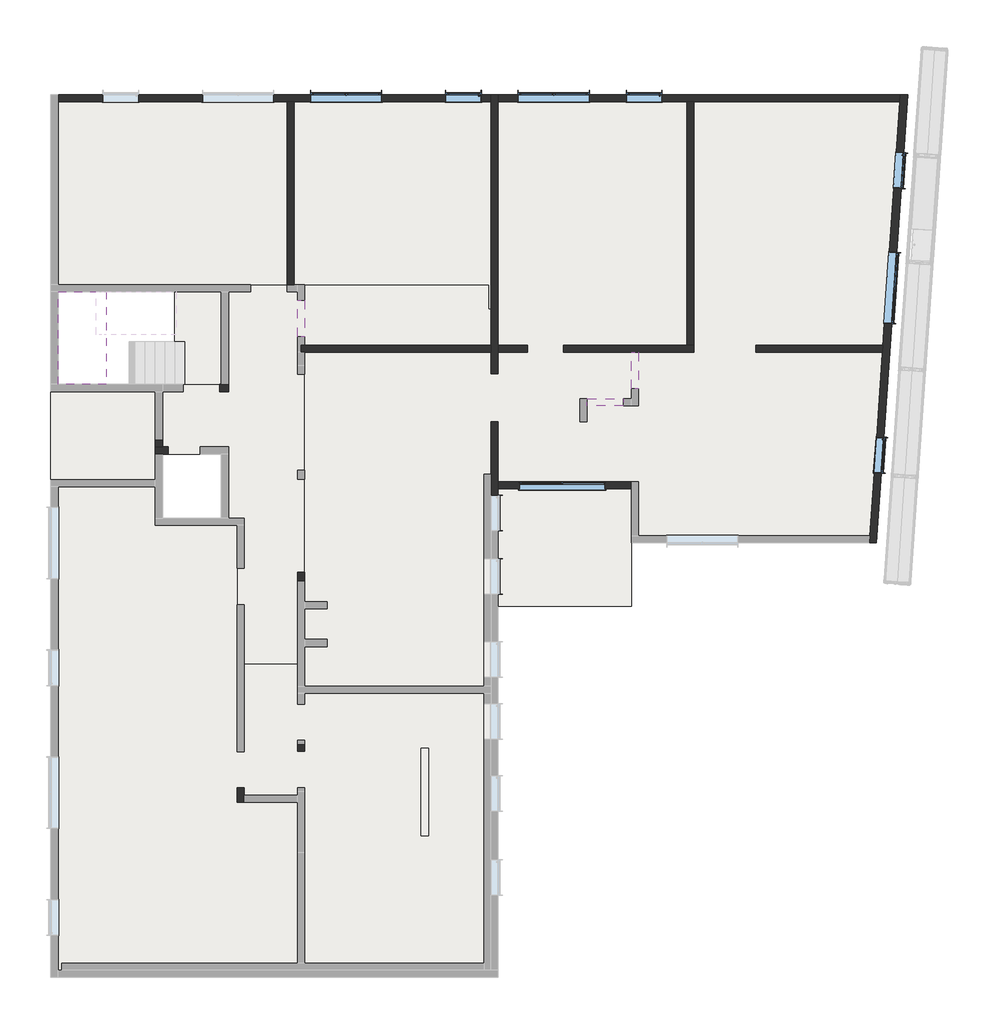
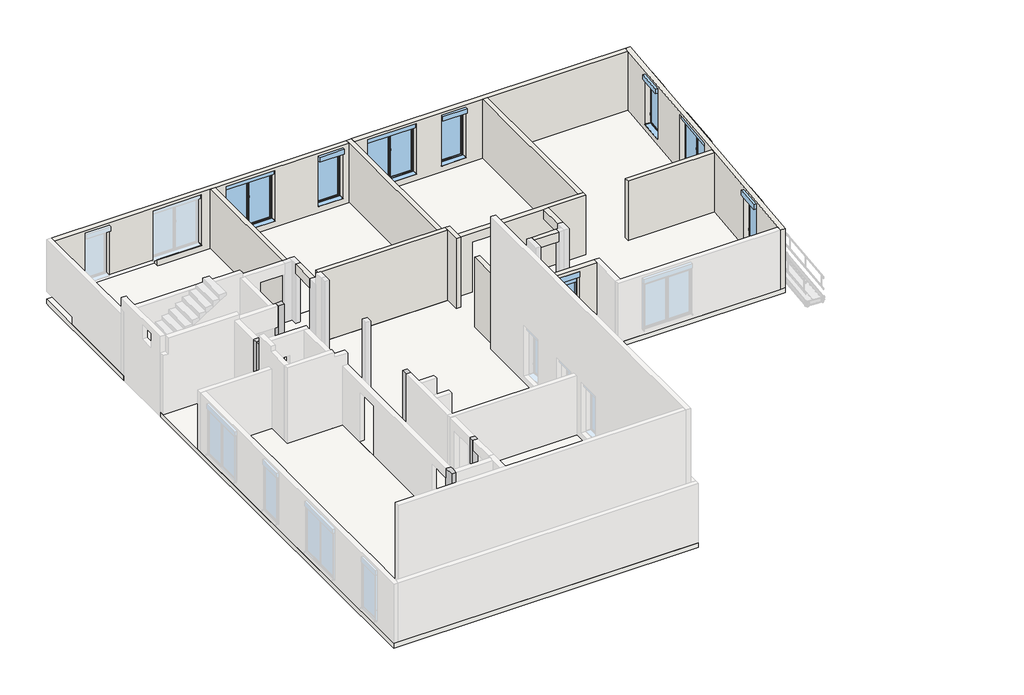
# One storey, part 2 of 3: 14 walls, 8 windows, 7 columns, 5 slabs.
"""IFC4 building model written with IfcOpenShell, lengths in millimetres."""

from ifc_helpers import new_model, si_unit, frame, origin, place, context, project, spatial, polyline, outline, extrude, faceted_brep, transform, mapped, element, save
from components import window_b85a0a24, window_200x100_8459d8a5, window_200x100_a15cc3b6, window_200x200_ecfd3ef9

model = new_model("IFC4")

# Units and contexts
model_context = context("Model", 3, world=origin())
ifc_project = project(units=[si_unit("LENGTHUNIT", "METRE", prefix="MILLI")], contexts=[model_context])

# Site, building, storey
site = spatial("IfcSite", under=ifc_project)
building = spatial("IfcBuilding", under=site)
storey = spatial("IfcBuildingStorey", under=building, Name="07-Plateau 7", Elevation=12400.0)

# Columns
placement = place(None, origin())
element("IfcColumn", 1, ObjectType="Poteau béton - Carré : 200 x 200 mm", at=placement, inside=storey, context=model_context, shape_type="SweptSolid", body=[
    extrude(outline(polyline([(-2977.0447796, 9329.8622276), (-2977.0447796, 9129.8622276), (-3177.0447796, 9129.8622276), (-3177.0447796, 9329.8622276), (-2977.0447796, 9329.8622276)])), frame((0.0, 0.0, 12570.0), z_axis=(0.0, 0.0, 1.0), x_axis=(1.0, 0.0, 0.0)), (0.0, 0.0, 1.0), 3080.0),
])
element("IfcColumn", 2, ObjectType="Poteau béton - Carré : 200 x 200 mm", at=placement, inside=storey, context=model_context, shape_type="SweptSolid", body=[
    extrude(outline(polyline([(-2977.0447796, 10879.8622276), (-2977.0447796, 10679.8622276), (-3177.0447796, 10679.8622276), (-3177.0447796, 10879.8622276), (-2977.0447796, 10879.8622276)])), frame((0.0, 0.0, 12570.0), z_axis=(0.0, 0.0, 1.0), x_axis=(1.0, 0.0, 0.0)), (0.0, 0.0, 1.0), 3080.0),
])
element("IfcColumn", 3, ObjectType="Poteau béton - Rectangulaire : 200x250 mm", at=placement, inside=storey, context=model_context, shape_type="Brep", body=[
    faceted_brep([(-1377.0447796, 10879.8622276, 12570.0), (-1327.0447796, 10879.8622276, 12570.0), (-1127.0447796, 10879.8622276, 12570.0), (-1127.0447796, 10679.8622276, 12570.0), (-1377.0447796, 10679.8622276, 12570.0), (-1377.0447796, 10879.8622276, 15650.0), (-1327.0447796, 10879.8622276, 15650.0), (-1127.0447796, 10879.8622276, 15650.0), (-1127.0447796, 10879.8622276, 15150.0), (-1377.0447796, 10879.8622276, 14740.0), (-1127.0447796, 10679.8622276, 15650.0), (-1377.0447796, 10679.8622276, 15650.0), (-1377.0447796, 10679.8622276, 14740.0)], [[[0, 1, 2, 3, 4]], [[5, 6, 7, 8, 2, 1, 0, 9]], [[7, 10, 3, 2, 8]], [[10, 11, 12, 4, 3]], [[11, 5, 9, 0, 4, 12]], [[5, 11, 10, 7, 6]]]),
])
element("IfcColumn", 4, ObjectType="Poteau béton - Rectangulaire : 200x360 mm", at=placement, inside=storey, context=model_context, shape_type="Brep", body=[
    faceted_brep([(-3177.0447796, 9129.8622276, 12570.0), (-2817.0447796, 9129.8622276, 12570.0), (-2817.0447796, 8929.8622276, 12570.0), (-2977.0447796, 8929.8622276, 12570.0), (-3177.0447796, 8929.8622276, 12570.0), (-3177.0447796, 9129.8622276, 15650.0), (-2817.0447796, 9129.8622276, 15650.0), (-2817.0447796, 9129.8622276, 14740.0), (-2817.0447796, 8929.8622276, 15650.0), (-2817.0447796, 8929.8622276, 14740.0), (-3177.0447796, 8929.8622276, 15650.0), (-3177.0447796, 8929.8622276, 15370.0)], [[[0, 1, 2, 3, 4]], [[5, 6, 7, 1, 0]], [[6, 8, 9, 2, 1, 7]], [[8, 10, 11, 4, 3, 2, 9]], [[10, 5, 0, 4, 11]], [[5, 10, 8, 6]]]),
])
element("IfcColumn", 5, ObjectType="Poteau béton - Rectangulaire : 20x25", at=placement, inside=storey, context=model_context, shape_type="Brep", body=[
    faceted_brep([(812.9552204, 5362.4340998, 12570.0), (812.9552204, 5612.4340998, 12570.0), (1012.9552204, 5612.4340998, 12570.0), (1012.9552204, 5362.4340998, 12570.0), (812.9552204, 5362.4340998, 15150.0), (812.9552204, 5612.4340998, 15150.0), (812.9552204, 5612.4340998, 14930.0), (1012.9552204, 5612.4340998, 15150.0), (1012.9552204, 5612.4340998, 14930.0), (1012.9552204, 5362.4340998, 15150.0)], [[[0, 1, 2, 3]], [[4, 5, 6, 1, 0]], [[5, 7, 8, 2, 1, 6]], [[7, 9, 3, 2, 8]], [[9, 4, 0, 3]], [[4, 9, 7, 5]]]),
])
element("IfcColumn", 6, ObjectType="Poteau béton - Rectangulaire : 20x30", at=placement, inside=storey, context=model_context, shape_type="Brep", body=[
    faceted_brep([(1012.9552204, 602.4340998, 12570.0), (812.9552204, 602.4340998, 12570.0), (812.9552204, 802.4340998, 12570.0), (1012.9552204, 802.4340998, 12570.0), (812.9552204, 602.4340998, 14740.0), (812.9552204, 602.4340998, 15150.0), (812.9552204, 802.4340998, 15150.0), (1012.9552204, 602.4340998, 15150.0), (1012.9552204, 602.4340998, 14740.0), (1012.9552204, 802.4340998, 15150.0)], [[[0, 1, 2, 3]], [[1, 4, 5, 6, 2]], [[7, 8, 0, 3, 9]], [[1, 0, 8, 7, 5, 4]], [[5, 7, 9, 6]], [[3, 2, 6, 9]]]),
])
element("IfcColumn", 7, ObjectType="Poteau béton - Rectangulaire : 20x40", at=placement, inside=storey, context=model_context, shape_type="Brep", body=[
    faceted_brep([(-687.0447796, -430.1377724, 12570.0), (-687.0447796, -630.1377724, 12570.0), (-687.0447796, -830.1377724, 12570.0), (-887.0447796, -830.1377724, 12570.0), (-887.0447796, -430.1377724, 12570.0), (-687.0447796, -430.1377724, 15150.0), (-687.0447796, -630.1377724, 15150.0), (-687.0447796, -830.1377724, 15150.0), (-687.0447796, -430.1377724, 14740.0), (-887.0447796, -830.1377724, 15150.0), (-887.0447796, -430.1377724, 15150.0), (-887.0447796, -430.1377724, 14740.0)], [[[0, 1, 2, 3, 4]], [[5, 6, 7, 2, 1, 0, 8]], [[7, 9, 3, 2]], [[9, 10, 11, 4, 3]], [[10, 5, 8, 0, 4, 11]], [[5, 10, 9, 7, 6]]]),
])

# Slabs
element("IfcSlab", 8, ObjectType="Plancher Coulé en place 23 cm", at=placement, inside=storey, context=model_context, shape_type="Brep", body=[
    faceted_brep([(-1327.0447796, 13579.8622276, 12340.0), (-1327.0447796, 13680.5057943, 12340.0), (6182.9552204, 13680.5057943, 12340.0), (6182.9552204, 12999.8622276, 12340.0), (6232.9552204, 12999.8622276, 12340.0), (6232.9552204, 11779.8622276, 12340.0), (1012.9552204, 11779.8622276, 12340.0), (1012.9552204, 3239.8622276, 12340.0), (1012.9552204, 3039.8622276, 12340.0), (507.9552204, 3039.8622276, 12340.0), (-512.0447796, 3039.8622276, 12340.0), (-687.0447796, 3039.8622276, 12340.0), (-887.0447796, 3039.8622276, 12340.0), (-887.0447796, 3339.8622276, 12340.0), (-887.0447796, 6929.8622276, 12340.0), (-1327.0447796, 6929.8622276, 12340.0), (-1327.0447796, 7129.8622276, 12340.0), (-1327.0447796, 8929.8622276, 12340.0), (-2817.0447796, 8929.8622276, 12340.0), (-3177.0447796, 8929.8622276, 12340.0), (-3177.0447796, 9129.8622276, 12340.0), (-3177.0447796, 10879.8622276, 12340.0), (-1377.0447796, 10879.8622276, 12340.0), (-1327.0447796, 10879.8622276, 12340.0), (-1327.0447796, 13579.8622276, 12570.0), (-1327.0447796, 10879.8622276, 12570.0), (-1377.0447796, 10879.8622276, 12570.0), (-2977.0447796, 10879.8622276, 12570.0), (-3177.0447796, 10879.8622276, 12570.0), (-3177.0447796, 10679.8622276, 12570.0), (-3177.0447796, 9329.8622276, 12570.0), (-3177.0447796, 9129.8622276, 12570.0), (-3177.0447796, 8929.8622276, 12570.0), (-2817.0447796, 8929.8622276, 12570.0), (-1327.0447796, 8929.8622276, 12570.0), (-1327.0447796, 7129.8622276, 12570.0), (-1327.0447796, 6929.8622276, 12570.0), (-887.0447796, 6929.8622276, 12570.0), (-887.0447796, 3039.8622276, 12570.0), (1012.9552204, 3039.8622276, 12570.0), (1012.9552204, 5362.4340998, 12570.0), (1012.9552204, 5612.4340998, 12570.0), (1012.9552204, 8227.4340998, 12570.0), (1012.9552204, 8477.4340998, 12570.0), (1012.9552204, 11167.4340998, 12570.0), (1012.9552204, 11417.4340998, 12570.0), (1012.9552204, 11779.5762916, 12570.0), (1012.9552204, 11779.8622276, 12570.0), (6232.9552204, 11779.8622276, 12570.0), (6232.9552204, 12999.8622276, 12570.0), (6182.9552204, 12999.8622276, 12570.0), (6182.9552204, 13680.5057943, 12570.0), (-1327.0447796, 13680.5057943, 12570.0)], [[[0, 1, 2, 3, 4, 5, 6, 7, 8, 9, 10, 11, 12, 13, 14, 15, 16, 17, 18, 19, 20, 21, 22, 23]], [[24, 25, 26, 27, 28, 29, 30, 31, 32, 33, 34, 35, 36, 37, 38, 39, 40, 41, 42, 43, 44, 45, 46, 47, 48, 49, 50, 51, 52]], [[1, 0, 24, 52]], [[2, 1, 52, 51]], [[3, 2, 51, 50]], [[4, 3, 50, 49]], [[5, 4, 49, 48]], [[6, 5, 48, 47]], [[8, 7, 6, 47, 46, 45, 44, 43, 42, 41, 40, 39]], [[12, 11, 10, 9, 8, 39, 38]], [[14, 13, 12, 38, 37]], [[15, 14, 37, 36]], [[16, 15, 36, 35]], [[17, 16, 35, 34]], [[19, 18, 17, 34, 33, 32]], [[21, 20, 19, 32, 31, 30, 29, 28]], [[23, 22, 21, 28, 27, 26, 25]], [[0, 23, 25, 24]]]),
])
element("IfcSlab", 9, ObjectType="Plancher Coulé en place 20 cm", at=placement, inside=storey, context=model_context, shape_type="Brep", body=[
    faceted_brep([(6332.9552204, 18999.8622276, 12370.0), (6482.9552204, 18999.8622276, 12370.0), (10172.9552204, 18999.8622276, 12370.0), (17919.8015255, 18999.8622276, 12370.0), (17041.777301, 6443.530828, 12370.0), (10173.5257924, 6443.530828, 12370.0), (10173.5257924, 7959.8622276, 12370.0), (7032.9552204, 7959.8622276, 12370.0), (6432.9552204, 7959.8622276, 12370.0), (6432.9552204, 7779.8622276, 12370.0), (6432.9552204, 6779.8622276, 12370.0), (6432.9552204, 5999.8622276, 12370.0), (6432.9552204, 1129.8622276, 12370.0), (6432.9552204, -2140.1377724, 12370.0), (6432.9552204, -2440.1377724, 12370.0), (6432.9552204, -5740.1377724, 12370.0), (-6107.0447796, -5740.1377724, 12370.0), (-6107.0447796, 8209.8622276, 12370.0), (-6107.0447796, 10679.8622276, 12370.0), (-6107.0447796, 10879.8622276, 12370.0), (-2977.0447796, 10879.8622276, 12370.0), (-2977.0447796, 7129.8622276, 12370.0), (-1327.0447796, 7129.8622276, 12370.0), (-1327.0447796, 6929.8622276, 12370.0), (-887.0447796, 6929.8622276, 12370.0), (-887.0447796, 3039.8622276, 12370.0), (1012.9552204, 3039.8622276, 12370.0), (1012.9552204, 11779.8622276, 12370.0), (6232.9552204, 11779.8622276, 12370.0), (6232.9552204, 12999.8622276, 12370.0), (6182.9552204, 12999.8622276, 12370.0), (6182.9552204, 13679.8622276, 12370.0), (-1327.0447796, 13679.8622276, 12370.0), (-1327.0447796, 13479.8622276, 12370.0), (-6107.0447796, 13479.8622276, 12370.0), (-6107.0447796, 16949.8622276, 12370.0), (-6107.0447796, 17149.8622276, 12370.0), (-6107.0447796, 18799.8622276, 12370.0), (-6107.0447796, 18999.8622276, 12370.0), (-1857.0447796, 18999.8622276, 12370.0), (5962.9552204, 18999.8622276, 12370.0), (6332.9552204, 18999.8622276, 12570.0), (-1657.0447796, 18999.8622276, 12570.0), (-6107.0447796, 18999.8622276, 12570.0), (-6107.0447796, 18799.8622276, 12570.0), (-6107.0447796, 17149.8622276, 12570.0), (-6107.0447796, 13479.8622276, 12570.0), (-1327.0447796, 13479.8622276, 12570.0), (-1327.0447796, 13679.8622276, 12570.0), (6182.9552204, 13679.8622276, 12570.0), (6182.9552204, 12999.8622276, 12570.0), (6232.9552204, 12999.8622276, 12570.0), (6232.9552204, 11779.8622276, 12570.0), (1012.9552204, 11779.8622276, 12570.0), (1012.9552204, 3039.8622276, 12570.0), (-887.0447796, 3039.8622276, 12570.0), (-887.0447796, 6929.8622276, 12570.0), (-1327.0447796, 6929.8622276, 12570.0), (-1327.0447796, 7129.8622276, 12570.0), (-2977.0447796, 7129.8622276, 12570.0), (-2977.0447796, 9129.8622276, 12570.0), (-2977.0447796, 9329.8622276, 12570.0), (-2977.0447796, 10679.8622276, 12570.0), (-2977.0447796, 10879.8622276, 12570.0), (-3177.0447796, 10879.8622276, 12570.0), (-6107.0447796, 10879.8622276, 12570.0), (-6107.0447796, 10679.8622276, 12570.0), (-6107.0447796, 8209.8622276, 12570.0), (-6107.0447796, -5740.1377724, 12570.0), (6432.9552204, -5740.1377724, 12570.0), (6432.9552204, 5999.8622276, 12570.0), (6432.9552204, 6779.8622276, 12570.0), (6432.9552204, 7959.8622276, 12570.0), (10173.5257924, 7959.8622276, 12570.0), (10173.5257924, 6443.530828, 12570.0), (17041.777301, 6443.530828, 12570.0), (17919.8015255, 18999.8622276, 12570.0)], [[[0, 1, 2, 3, 4, 5, 6, 7, 8, 9, 10, 11, 12, 13, 14, 15, 16, 17, 18, 19, 20, 21, 22, 23, 24, 25, 26, 27, 28, 29, 30, 31, 32, 33, 34, 35, 36, 37, 38, 39, 40]], [[41, 42, 43, 44, 45, 46, 47, 48, 49, 50, 51, 52, 53, 54, 55, 56, 57, 58, 59, 60, 61, 62, 63, 64, 65, 66, 67, 68, 69, 70, 71, 72, 73, 74, 75, 76]], [[3, 2, 1, 0, 41, 76]], [[4, 3, 76, 75]], [[5, 4, 75, 74]], [[16, 15, 69, 68]], [[19, 18, 17, 16, 68, 67, 66, 65]], [[20, 19, 65, 64, 63]], [[21, 20, 63, 62, 61, 60, 59]], [[22, 21, 59, 58]], [[23, 22, 58, 57]], [[24, 23, 57, 56]], [[25, 24, 56, 55]], [[26, 25, 55, 54]], [[27, 26, 54, 53]], [[28, 27, 53, 52]], [[29, 28, 52, 51]], [[30, 29, 51, 50]], [[31, 30, 50, 49]], [[32, 31, 49, 48]], [[33, 32, 48, 47]], [[34, 33, 47, 46]], [[38, 37, 36, 35, 34, 46, 45, 44, 43]], [[0, 40, 39, 38, 43, 42, 41]], [[6, 5, 74, 73]], [[8, 7, 6, 73, 72]], [[15, 14, 13, 12, 11, 10, 9, 8, 72, 71, 70, 69]]]),
])
element("IfcSlab", 10, ObjectType="Plancher Coulé en place 24 cm", at=placement, inside=storey, context=model_context, shape_type="Brep", body=[
    faceted_brep([(10172.9552204, 7959.8622276, 12260.0), (10172.9552204, 4670.830828, 12260.0), (6432.9552204, 4670.830828, 12260.0), (6432.9552204, 7959.8622276, 12260.0), (10172.9552204, 7959.8622276, 12500.0), (6432.9552204, 7959.8622276, 12500.0), (6432.9552204, 4670.830828, 12500.0), (10172.9552204, 4670.830828, 12500.0), (6432.9552204, 7959.8622276, 12370.0)], [[[0, 1, 2, 3]], [[4, 5, 6, 7]], [[1, 0, 4, 7]], [[2, 1, 7, 6]], [[3, 2, 6, 5, 8]], [[0, 3, 8, 5, 4]]]),
])
element("IfcSlab", 11, ObjectType="Plancher Coulé en place 20 cm", at=placement, inside=storey, context=model_context, shape_type="SweptSolid", body=[
    extrude(outline(polyline([(-2628.7510491, 10879.8622276), (-2628.7510491, 13479.8622276), (-1327.0447796, 13479.8622276), (-1327.0447796, 10879.8622276), (-2628.7510491, 10879.8622276)])), frame((0.0, 0.0, 12440.0), z_axis=(0.0, 0.0, 1.0), x_axis=(1.0, 0.0, 0.0)), (0.0, 0.0, 1.0), 200.0),
])
element("IfcSlab", 12, ObjectType="Plancher Coulé en place 18 cm", at=placement, inside=storey, context=model_context, shape_type="SweptSolid", body=[
    extrude(outline(polyline([(-5907.0447796, 10879.8622276), (-5907.0447796, 13479.8622276), (-4550.4151884, 13479.8622276), (-4550.4151884, 10879.8622276), (-5907.0447796, 10879.8622276)])), frame((0.0, 0.0, 14110.0), z_axis=(0.0, 0.0, 1.0), x_axis=(1.0, 0.0, 0.0)), (0.0, 0.0, 1.0), 180.0),
])

# Walls
element("IfcWall", 13, ObjectType="Voile Banché 20 cm", at=placement, inside=storey, context=model_context, shape_type="Brep", body=[
    faceted_brep([(-1657.0447796, 18799.8622276, 12570.0), (6232.9552204, 18799.8622276, 12570.0), (6232.9552204, 18799.8622276, 15150.0), (712.9552204, 18799.8622276, 15150.0), (512.9552204, 18799.8622276, 15150.0), (-5907.0447796, 18799.8622276, 15150.0), (-5907.0447796, 18799.8622276, 12900.0), (-4647.0447796, 18799.8622276, 12900.0), (-4647.0447796, 18799.8622276, 15040.0), (-3647.0447796, 18799.8622276, 15040.0), (-3647.0447796, 18799.8622276, 12900.0), (-1857.0447796, 18799.8622276, 12900.0), (-1857.0447796, 18799.8622276, 15040.0), (142.9552204, 18799.8622276, 15040.0), (142.9552204, 18799.8622276, 12840.0), (-1657.0447796, 18799.8622276, 12840.0), (5962.9552204, 18799.8622276, 15040.0), (5962.9552204, 18799.8622276, 12840.0), (4962.9552204, 18799.8622276, 12840.0), (4962.9552204, 18799.8622276, 15040.0), (1172.9552204, 18799.8622276, 12840.0), (1172.9552204, 18799.8622276, 15040.0), (3172.9552204, 18799.8622276, 15040.0), (3172.9552204, 18799.8622276, 12840.0), (6232.9552204, 18999.8622276, 12570.0), (-1657.0447796, 18999.8622276, 12570.0), (-1657.0447796, 18999.8622276, 12840.0), (142.9552204, 18999.8622276, 12840.0), (142.9552204, 18999.8622276, 15040.0), (-1857.0447796, 18999.8622276, 15040.0), (-1857.0447796, 18999.8622276, 12900.0), (-3647.0447796, 18999.8622276, 12900.0), (-3647.0447796, 18999.8622276, 15040.0), (-4647.0447796, 18999.8622276, 15040.0), (-4647.0447796, 18999.8622276, 12900.0), (-5907.0447796, 18999.8622276, 12900.0), (-5907.0447796, 18999.8622276, 15150.0), (6232.9552204, 18999.8622276, 15150.0), (5962.9552204, 18999.8622276, 12840.0), (5962.9552204, 18999.8622276, 15040.0), (4962.9552204, 18999.8622276, 15040.0), (4962.9552204, 18999.8622276, 12840.0), (1172.9552204, 18999.8622276, 15040.0), (1172.9552204, 18999.8622276, 12840.0), (3172.9552204, 18999.8622276, 12840.0), (3172.9552204, 18999.8622276, 15040.0)], [[[0, 1, 2, 3, 4, 5, 6, 7, 8, 9, 10, 11, 12, 13, 14, 15], [16, 17, 18, 19], [20, 21, 22, 23]], [[24, 25, 26, 27, 28, 29, 30, 31, 32, 33, 34, 35, 36, 37], [38, 39, 40, 41], [42, 43, 44, 45]], [[2, 1, 24, 37]], [[6, 5, 36, 35]], [[5, 4, 3, 2, 37, 36]], [[1, 0, 25, 24]], [[6, 35, 34, 7]], [[31, 30, 11, 10]], [[0, 15, 26, 25]], [[9, 32, 31, 10]], [[32, 9, 8, 33]], [[33, 8, 7, 34]], [[38, 17, 16, 39]], [[39, 16, 19, 40]], [[40, 19, 18, 41]], [[17, 38, 41, 18]], [[29, 12, 11, 30]], [[12, 29, 28, 13]], [[13, 28, 27, 14]], [[14, 27, 26, 15]], [[20, 43, 42, 21]], [[21, 42, 45, 22]], [[22, 45, 44, 23]], [[43, 20, 23, 44]]]),
])
element("IfcWall", 14, ObjectType="Voile Banché 20 cm", at=placement, inside=storey, context=model_context, shape_type="Brep", body=[
    faceted_brep([(6232.9552204, 18999.8622276, 12570.0), (6232.9552204, 18799.8622276, 12570.0), (6232.9552204, 11979.8622276, 12570.0), (6232.9552204, 11779.8622276, 12570.0), (6232.9552204, 11179.8622276, 12570.0), (6232.9552204, 11179.8622276, 15620.0), (6232.9552204, 11779.8622276, 15620.0), (6232.9552204, 11979.8622276, 15620.0), (6232.9552204, 11979.8622276, 15150.0), (6232.9552204, 18799.8622276, 15150.0), (6232.9552204, 18999.8622276, 15150.0), (6432.9552204, 18999.8622276, 12570.0), (6432.9552204, 18999.8622276, 15150.0), (6432.9552204, 18799.8622276, 15150.0), (6432.9552204, 11979.8622276, 15150.0), (6432.9552204, 11979.8622276, 15620.0), (6432.9552204, 11179.8622276, 15620.0), (6432.9552204, 11179.8622276, 12570.0), (6432.9552204, 11779.8622276, 12570.0), (6432.9552204, 11979.8622276, 12570.0), (6432.9552204, 18799.8622276, 12570.0), (6332.9552204, 18999.8622276, 15150.0), (6242.9552204, 11179.8622276, 15620.0)], [[[0, 1, 2, 3, 4, 5, 6, 7, 8, 9, 10]], [[11, 12, 13, 14, 15, 16, 17, 18, 19, 20]], [[0, 10, 21, 12, 11]], [[4, 3, 2, 1, 0, 11, 20, 19, 18, 17]], [[5, 4, 17, 16, 22]], [[7, 6, 5, 22, 16, 15]], [[10, 9, 8, 14, 13, 12, 21]], [[8, 7, 15, 14]]]),
])
element("IfcWall", 15, ObjectType="Voile Banché 20 cm", at=placement, inside=storey, context=model_context, shape_type="Brep", body=[
    faceted_brep([(10372.9552204, 18799.8622276, 12570.0), (17705.3277835, 18799.8622276, 12570.0), (17705.3277835, 18799.8622276, 15150.0), (11922.9552204, 18799.8622276, 15150.0), (11722.9552204, 18799.8622276, 15150.0), (6432.9552204, 18799.8622276, 15150.0), (6432.9552204, 18799.8622276, 12570.0), (11032.9552204, 18799.8622276, 15040.0), (11032.9552204, 18799.8622276, 12840.0), (10032.9552204, 18799.8622276, 12840.0), (10032.9552204, 18799.8622276, 15040.0), (6992.9552204, 18799.8622276, 12840.0), (6992.9552204, 18799.8622276, 15040.0), (8992.9552204, 18799.8622276, 15040.0), (8992.9552204, 18799.8622276, 12840.0), (17719.3131459, 18999.8622276, 12570.0), (10372.9552204, 18999.8622276, 12570.0), (6432.9552204, 18999.8622276, 12570.0), (6432.9552204, 18999.8622276, 15150.0), (17719.3131459, 18999.8622276, 15150.0), (11032.9552204, 18999.8622276, 12840.0), (11032.9552204, 18999.8622276, 15040.0), (10032.9552204, 18999.8622276, 15040.0), (10032.9552204, 18999.8622276, 12840.0), (6992.9552204, 18999.8622276, 15040.0), (6992.9552204, 18999.8622276, 12840.0), (8992.9552204, 18999.8622276, 12840.0), (8992.9552204, 18999.8622276, 15040.0)], [[[0, 1, 2, 3, 4, 5, 6], [7, 8, 9, 10], [11, 12, 13, 14]], [[15, 16, 17, 18, 19], [20, 21, 22, 23], [24, 25, 26, 27]], [[2, 1, 15, 19]], [[6, 5, 18, 17]], [[5, 4, 3, 2, 19, 18]], [[1, 0, 16, 15]], [[0, 6, 17, 16]], [[20, 8, 7, 21]], [[21, 7, 10, 22]], [[22, 10, 9, 23]], [[8, 20, 23, 9]], [[11, 25, 24, 12]], [[12, 24, 27, 13]], [[13, 27, 26, 14]], [[25, 11, 14, 26]]]),
])
element("IfcWall", 16, ObjectType="Voile Banché 20 cm", at=placement, inside=storey, context=model_context, shape_type="Brep", body=[
    faceted_brep([(17719.3131459, 18999.8622276, 12570.0), (17705.3277835, 18799.8622276, 12570.0), (17228.4269261, 11979.8622276, 12570.0), (17214.4415637, 11779.8622276, 12570.0), (16855.2742838, 6643.530828, 12570.0), (16841.2889214, 6443.530828, 12570.0), (16841.2889214, 6443.530828, 15150.0), (16855.2742838, 6643.530828, 15150.0), (17214.4415637, 11779.8622276, 15150.0), (17228.4269261, 11979.8622276, 15150.0), (17705.3277835, 18799.8622276, 15150.0), (17719.3131459, 18999.8622276, 15150.0), (17048.5338733, 9407.2717184, 12840.0), (17048.5338733, 9407.2717184, 15040.0), (16978.7773996, 8409.7076681, 15040.0), (16978.7773996, 8409.7076681, 12840.0), (17606.5856633, 17387.7841205, 12840.0), (17606.5856633, 17387.7841205, 15040.0), (17536.8291895, 16390.2200702, 15040.0), (17536.8291895, 16390.2200702, 12840.0), (17411.2675368, 14594.6047797, 12840.0), (17411.2675368, 14594.6047797, 15040.0), (17271.7545893, 12599.4766792, 15040.0), (17271.7545893, 12599.4766792, 12840.0), (17041.777301, 6443.530828, 12570.0), (17919.8015255, 18999.8622276, 12570.0), (17919.8015255, 18999.8622276, 15150.0), (17041.777301, 6443.530828, 15150.0), (17248.0466834, 9393.3204236, 15040.0), (17248.0466834, 9393.3204236, 12840.0), (17178.2902096, 8395.7563734, 12840.0), (17178.2902096, 8395.7563734, 15040.0), (17806.0984733, 17373.8328257, 15040.0), (17806.0984733, 17373.8328257, 12840.0), (17736.3419996, 16376.2687754, 12840.0), (17736.3419996, 16376.2687754, 15040.0), (17610.7803468, 14580.653485, 15040.0), (17610.7803468, 14580.653485, 12840.0), (17471.2673993, 12585.5253845, 12840.0), (17471.2673993, 12585.5253845, 15040.0)], [[[0, 1, 2, 3, 4, 5, 6, 7, 8, 9, 10, 11], [12, 13, 14, 15], [16, 17, 18, 19], [20, 21, 22, 23]], [[24, 25, 26, 27], [28, 29, 30, 31], [32, 33, 34, 35], [36, 37, 38, 39]], [[5, 4, 3, 2, 1, 0, 25, 24]], [[6, 5, 24, 27]], [[0, 11, 26, 25]], [[11, 10, 9, 8, 7, 6, 27, 26]], [[12, 29, 28, 13]], [[13, 28, 31, 14]], [[14, 31, 30, 15]], [[29, 12, 15, 30]], [[16, 33, 32, 17]], [[17, 32, 35, 18]], [[18, 35, 34, 19]], [[33, 16, 19, 34]], [[20, 37, 36, 21]], [[21, 36, 39, 22]], [[22, 39, 38, 23]], [[37, 20, 23, 38]]]),
])
element("IfcWall", 17, ObjectType="Voile Banché 20 cm", at=placement, inside=storey, context=model_context, shape_type="Brep", body=[
    faceted_brep([(912.9552204, 11779.8622276, 12570.0), (1012.9552204, 11779.8622276, 12570.0), (6232.9552204, 11779.8622276, 12570.0), (6232.9552204, 11779.8622276, 15620.0), (1012.9552204, 11779.8622276, 15620.0), (1008.9552204, 11779.8622276, 15620.0), (912.9552204, 11779.8622276, 15620.0), (912.9552204, 11779.8622276, 15370.0), (912.9552204, 11779.8622276, 15150.0), (912.9552204, 11979.8622276, 12570.0), (912.9552204, 11979.8622276, 15150.0), (912.9552204, 11979.8622276, 15620.0), (6232.9552204, 11979.8622276, 15620.0), (6232.9552204, 11979.8622276, 15150.0), (6232.9552204, 11979.8622276, 12570.0), (1012.9552204, 11979.8622276, 12570.0), (912.9552204, 11979.5762916, 15620.0)], [[[0, 1, 2, 3, 4, 5, 6, 7, 8]], [[9, 10, 11, 12, 13, 14, 15]], [[2, 1, 0, 9, 15, 14]], [[6, 5, 4, 3, 12, 11, 16]], [[0, 8, 7, 6, 16, 11, 10, 9]], [[3, 2, 14, 13, 12]]]),
])
element("IfcWall", 18, ObjectType="Voile Banché 20 cm", at=placement, inside=storey, context=model_context, shape_type="Brep", body=[
    faceted_brep([(10173.5257924, 8159.8622276, 12570.0), (6432.9552204, 8159.8622276, 12570.0), (6432.9552204, 8159.8622276, 15150.0), (10173.5257924, 8159.8622276, 15150.0), (7003.5257924, 8159.8622276, 15010.0), (7003.5257924, 8159.8622276, 14790.0), (7003.5257924, 8159.8622276, 12710.0), (7003.5257924, 8159.8622276, 12680.0), (9463.5257924, 8159.8622276, 12680.0), (9463.5257924, 8159.8622276, 12710.0), (9463.5257924, 8159.8622276, 14790.0), (9463.5257924, 8159.8622276, 15010.0), (6432.9552204, 7959.8622276, 12570.0), (10173.5257924, 7959.8622276, 12570.0), (10173.5257924, 7959.8622276, 15150.0), (6432.9552204, 7959.8622276, 15150.0), (7003.5257924, 7959.8622276, 14760.0), (7003.5257924, 7959.8622276, 15010.0), (9463.5257924, 7959.8622276, 15010.0), (9463.5257924, 7959.8622276, 14760.0), (9433.5257924, 7959.8622276, 14760.0), (9433.5257924, 7959.8622276, 12665.0695702), (9463.5257924, 7959.8622276, 12665.0695702), (9463.5257924, 7959.8622276, 12610.0), (7003.5257924, 7959.8622276, 12610.0), (7003.5257924, 7959.8622276, 12665.0695702), (7033.5257924, 7959.8622276, 12665.0695702), (7033.5257924, 7959.8622276, 14760.0), (7023.5257924, 8109.8622276, 14770.0), (7023.5257924, 8109.8622276, 12710.0), (7003.5257924, 8109.8622276, 12710.0), (7003.5257924, 8109.8622276, 14770.0), (9443.5257924, 8109.8622276, 12710.0), (9443.5257924, 8109.8622276, 14770.0), (9463.5257924, 8109.8622276, 14770.0), (9463.5257924, 8109.8622276, 12710.0), (7003.5257924, 8099.8622276, 12710.0), (7003.5257924, 8099.8622276, 12679.2643667), (7003.5257924, 8089.8622276, 12610.0), (7003.5257924, 8099.8622276, 14760.0), (7003.5257924, 8099.8622276, 14770.0), (9463.5257924, 8099.8622276, 14770.0), (9463.5257924, 8099.8622276, 14760.0), (9463.5257924, 8089.8622276, 12610.0), (9463.5257924, 8099.8622276, 12679.2643667), (9463.5257924, 8099.8622276, 12710.0), (7033.5257924, 8099.8622276, 12610.0), (9433.5257924, 8099.8622276, 12610.0), (9433.5257924, 8099.8622276, 12620.0), (7033.5257924, 8099.8622276, 12620.0), (9433.5257924, 8089.8622276, 12610.0), (9433.5257924, 8099.8622276, 14760.0), (9433.5257924, 8099.8622276, 12679.2643667), (7033.5257924, 8089.8622276, 12610.0), (7033.5257924, 8099.8622276, 12679.2643667), (7033.5257924, 8099.8622276, 14760.0), (7023.5257924, 8099.8622276, 12710.0), (7023.5257924, 8099.8622276, 14760.0), (9443.5257924, 8099.8622276, 14760.0), (9443.5257924, 8099.8622276, 12710.0), (9443.5257924, 8099.8622276, 14770.0), (7023.5257924, 8099.8622276, 14770.0)], [[[0, 1, 2, 3], [4, 5, 6, 7, 8, 9, 10, 11]], [[12, 13, 14, 15], [16, 17, 18, 19, 20, 21, 22, 23, 24, 25, 26, 27]], [[1, 0, 13, 12]], [[0, 3, 14, 13]], [[2, 1, 12, 15]], [[3, 2, 15, 14]], [[28, 29, 30, 31]], [[32, 33, 34, 35]], [[31, 30, 36, 37, 25, 24, 38, 7, 6, 5, 4, 17, 16, 39, 40]], [[35, 34, 41, 42, 19, 18, 11, 10, 9, 8, 43, 23, 22, 44, 45]], [[46, 47, 48, 49]], [[48, 47, 50]], [[20, 51, 52, 21]], [[47, 46, 53, 38, 24, 23, 43, 50]], [[46, 49, 53]], [[54, 55, 27, 26]], [[37, 36, 56, 57, 55, 54]], [[45, 44, 52, 51, 58, 59]], [[33, 32, 59, 58, 60]], [[29, 28, 61, 57, 56]], [[7, 38, 53, 49, 48, 50, 43, 8]], [[37, 54, 26, 25]], [[52, 44, 22, 21]], [[32, 35, 45, 59]], [[30, 29, 56, 36]], [[17, 4, 11, 18]], [[34, 33, 60, 41]], [[28, 31, 40, 61]], [[42, 41, 60, 58]], [[40, 39, 57, 61]], [[19, 42, 58, 51, 20]], [[39, 16, 27, 55, 57]]]),
])
element("IfcWall", 19, ObjectType="Voile Banché 20 cm", at=placement, inside=storey, context=model_context, shape_type="Brep", body=[
    faceted_brep([(10373.5257924, 10759.8622276, 14740.0), (10373.5257924, 11779.8622276, 14740.0), (10373.5257924, 11779.8622276, 15150.0), (10373.5257924, 10759.8622276, 15150.0), (10173.5257924, 10759.8622276, 14740.0), (10173.5257924, 10759.8622276, 15150.0), (10173.5257924, 11779.8622276, 15150.0), (10173.5257924, 11779.8622276, 14740.0), (10372.9552204, 10759.8622276, 15150.0)], [[[0, 1, 2, 3]], [[4, 5, 6, 7]], [[1, 0, 4, 7]], [[0, 3, 8, 5, 4]], [[2, 1, 7, 6]], [[3, 2, 6, 5, 8]]]),
])
element("IfcWall", 20, ObjectType="Voile Banché 20 cm", at=placement, inside=storey, context=model_context, shape_type="SweptSolid", body=[
    extrude(outline(polyline([(8932.9552204, 10479.8622276), (9952.9552204, 10479.8622276), (9952.9552204, 10279.8622276), (8932.9552204, 10279.8622276), (8932.9552204, 10479.8622276)])), frame((0.0, 0.0, 14740.0), z_axis=(0.0, 0.0, 1.0), x_axis=(1.0, 0.0, 0.0)), (0.0, 0.0, 1.0), 410.0),
])
element("IfcWall", 21, ObjectType="Voile Banché 20 cm", at=placement, inside=storey, context=model_context, shape_type="Brep", body=[
    faceted_brep([(6232.9552204, 9839.8622276, 12570.0), (6232.9552204, 6779.8622276, 12570.0), (6232.9552204, 6779.8622276, 12840.0), (6232.9552204, 7779.8622276, 12840.0), (6232.9552204, 7779.8622276, 15040.0), (6232.9552204, 6779.8622276, 15040.0), (6232.9552204, 6779.8622276, 15150.0), (6232.9552204, 6779.8622276, 15370.0), (6232.9552204, 6929.8622276, 15370.0), (6232.9552204, 6929.8622276, 15620.0), (6232.9552204, 7129.8622276, 15620.0), (6232.9552204, 7130.1481637, 15620.0), (6232.9552204, 9839.8622276, 15620.0), (6432.9552204, 6779.8622276, 12570.0), (6432.9552204, 7959.8622276, 12570.0), (6432.9552204, 8159.8622276, 12570.0), (6432.9552204, 9839.8622276, 12570.0), (6432.9552204, 9839.8622276, 15620.0), (6432.9552204, 7130.1481637, 15620.0), (6432.9552204, 6929.8622276, 15620.0), (6432.9552204, 6929.8622276, 15370.0), (6432.9552204, 6779.8622276, 15370.0), (6432.9552204, 6779.8622276, 15150.0), (6432.9552204, 6779.8622276, 15040.0), (6432.9552204, 7779.8622276, 15040.0), (6432.9552204, 7779.8622276, 12840.0), (6432.9552204, 6779.8622276, 12840.0), (6242.9552204, 9839.8622276, 15620.0)], [[[0, 1, 2, 3, 4, 5, 6, 7, 8, 9, 10, 11, 12]], [[13, 14, 15, 16, 17, 18, 19, 20, 21, 22, 23, 24, 25, 26]], [[1, 0, 16, 15, 14, 13]], [[1, 13, 26, 2]], [[21, 7, 6, 5, 23, 22]], [[12, 11, 18, 17, 27]], [[0, 12, 27, 17, 16]], [[8, 7, 21, 20]], [[11, 10, 9, 19, 18]], [[9, 8, 20, 19]], [[3, 25, 24, 4]], [[4, 24, 23, 5]], [[25, 3, 2, 26]]]),
])
element("IfcWall", 22, ObjectType="Voile Banché 20 cm", at=placement, inside=storey, context=model_context, shape_type="SweptSolid", body=[
    extrude(outline(polyline([(17214.4415637, 11779.8622276), (13658.3552204, 11779.8622276), (13658.3552204, 11979.8622276), (17228.4269261, 11979.8622276), (17214.4415637, 11779.8622276)])), frame((0.0, 0.0, 12570.0), z_axis=(0.0, 0.0, 1.0), x_axis=(1.0, 0.0, 0.0)), (0.0, 0.0, 1.0), 2580.0),
])
element("IfcWall", 23, ObjectType="Voile Banché 20 cm", at=placement, inside=storey, context=model_context, shape_type="SweptSolid", body=[
    extrude(outline(polyline([(812.9552204, 12219.5762916), (812.9552204, 13239.5762916), (1012.9552204, 13239.5762916), (1012.9552204, 12219.5762916), (812.9552204, 12219.5762916)])), frame((0.0, 0.0, 14740.0), z_axis=(0.0, 0.0, 1.0), x_axis=(1.0, 0.0, 0.0)), (0.0, 0.0, 1.0), 410.0),
])
element("IfcWall", 24, ObjectType="Poutre voile 20cm", at=placement, inside=storey, context=model_context, shape_type="Brep", body=[
    faceted_brep([(11922.9552204, 11779.8622276, 12570.0), (11922.9552204, 11779.8622276, 15150.0), (10373.5257924, 11779.8622276, 15150.0), (10173.5257924, 11779.8622276, 15150.0), (6432.9552204, 11779.8622276, 15150.0), (6432.9552204, 11779.8622276, 12570.0), (7252.9552204, 11779.8622276, 12570.0), (7252.9552204, 11779.8622276, 14740.0), (8272.9552204, 11779.8622276, 14740.0), (8272.9552204, 11779.8622276, 12570.0), (11922.9552204, 11979.8622276, 15150.0), (11922.9552204, 11979.8622276, 12570.0), (11722.9552204, 11979.8622276, 12570.0), (8272.9552204, 11979.8622276, 12570.0), (8272.9552204, 11979.8622276, 14740.0), (7252.9552204, 11979.8622276, 14740.0), (7252.9552204, 11979.8622276, 12570.0), (6432.9552204, 11979.8622276, 12570.0), (6432.9552204, 11979.8622276, 15150.0), (11722.9552204, 11979.8622276, 15150.0), (11922.9552204, 11879.8622276, 12570.0)], [[[0, 1, 2, 3, 4, 5, 6, 7, 8, 9]], [[10, 11, 12, 13, 14, 15, 16, 17, 18, 19]], [[11, 20, 0, 9, 13, 12]], [[5, 17, 16, 6]], [[1, 0, 20, 11, 10]], [[7, 15, 14, 8]], [[15, 7, 6, 16]], [[8, 14, 13, 9]], [[4, 3, 2, 1, 10, 19, 18]], [[5, 4, 18, 17]]]),
])
element("IfcWall", 25, ObjectType="Poutre voile 20cm", at=placement, inside=storey, context=model_context, shape_type="Brep", body=[
    faceted_brep([(512.9552204, 18799.8622276, 12370.0), (512.9552204, 13679.8622276, 12370.0), (512.9552204, 13679.8622276, 12570.0), (512.9552204, 13679.8622276, 15150.0), (512.9552204, 18799.8622276, 15150.0), (712.9552204, 18799.8622276, 12370.0), (712.9552204, 18799.8622276, 15150.0), (712.9552204, 13679.8622276, 15150.0), (712.9552204, 13679.8622276, 12370.0)], [[[0, 1, 2, 3, 4]], [[5, 6, 7, 8]], [[1, 0, 5, 8]], [[3, 2, 1, 8, 7]], [[0, 4, 6, 5]], [[4, 3, 7, 6]]]),
])
element("IfcWall", 26, ObjectType="Poutre voile 20cm", at=placement, inside=storey, context=model_context, shape_type="SweptSolid", body=[
    extrude(outline(polyline([(18799.8622276, 12370.0), (11879.8622276, 12370.0), (11879.8622276, 12570.0), (11979.8622276, 12570.0), (11979.8622276, 15150.0), (18799.8622276, 15150.0), (18799.8622276, 12370.0)])), frame((11722.9552204, 0.0, 0.0), z_axis=(1.0, 0.0, 0.0), x_axis=(0.0, 1.0, 0.0)), (0.0, 0.0, 1.0), 200.0),
])

# Windows
window_shape = window_b85a0a24(model_context)
element("IfcWindow", 27, ObjectType="Rect 2 couliss+CVR+App : M03 Appuis 7 cm", at=placement, inside=storey, context=model_context, shape_type="MappedRepresentation", body=[
    mapped(window_shape, transform((8233.5257924, 8059.8622276, 12710.0), x_axis=(-1.0, 0.0, 0.0), y_axis=(0.0, -1.0, 0.0), z_axis=(0.0, 0.0, 1.0))),
])
window_200x100_shape = window_200x100_8459d8a5(model_context)
element("IfcWindow", 28, ObjectType="Tunnel 1V+VR+ Voile : 200x100", at=placement, inside=storey, context=model_context, shape_type="MappedRepresentation", body=[
    mapped(window_200x100_shape, transform((17671.4638314, 16882.026448, 12040.0), x_axis=(-0.06975647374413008, -0.997564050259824, 0.0), y_axis=(0.997564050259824, -0.06975647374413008, 0.0), z_axis=(0.0, 0.0, 1.0))),
])
element("IfcWindow", 29, ObjectType="Tunnel 1V+VR+ Voile : 200x100", at=placement, inside=storey, context=model_context, shape_type="MappedRepresentation", body=[
    mapped(window_200x100_shape, transform((17113.4120415, 8901.5140459, 12040.0), x_axis=(-0.06975647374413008, -0.997564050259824, 0.0), y_axis=(0.997564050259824, -0.06975647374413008, 0.0), z_axis=(0.0, 0.0, 1.0))),
])
window_200x100_2_shape = window_200x100_a15cc3b6(model_context)
element("IfcWindow", 30, ObjectType="Tunnel 1V+VR+ Voile : 200x100", at=placement, inside=storey, context=model_context, shape_type="MappedRepresentation", body=[
    mapped(window_200x100_2_shape, transform((5462.9552204, 18899.8622276, 12040.0), x_axis=(-1.0, 0.0, 0.0), y_axis=(0.0, -1.0, 0.0), z_axis=(0.0, 0.0, 1.0))),
])
element("IfcWindow", 31, ObjectType="Tunnel 1V+VR+ Voile : 200x100", at=placement, inside=storey, context=model_context, shape_type="MappedRepresentation", body=[
    mapped(window_200x100_2_shape, transform((10532.9552204, 18899.8622276, 12040.0), x_axis=(-1.0, 0.0, 0.0), y_axis=(0.0, -1.0, 0.0), z_axis=(0.0, 0.0, 1.0))),
])
window_200x200_shape = window_200x200_ecfd3ef9(model_context)
element("IfcWindow", 32, ObjectType="Tunnel 2V+VR+ Voile : 200x200", at=placement, inside=storey, context=model_context, shape_type="MappedRepresentation", body=[
    mapped(window_200x200_shape, transform((7992.9552204, 18899.8622276, 12840.0), x_axis=(1.0, 0.0, 0.0), y_axis=(0.0, 1.0, 0.0), z_axis=(0.0, 0.0, 1.0))),
])
element("IfcWindow", 33, ObjectType="Tunnel 2V+VR+ Voile : 200x200", at=placement, inside=storey, context=model_context, shape_type="MappedRepresentation", body=[
    mapped(window_200x200_shape, transform((2172.9552204, 18899.8622276, 12840.0), x_axis=(1.0, 0.0, 0.0), y_axis=(0.0, 1.0, 0.0), z_axis=(0.0, 0.0, 1.0))),
])
element("IfcWindow", 34, ObjectType="Tunnel 2V+VR+ Voile : 200x200", at=placement, inside=storey, context=model_context, shape_type="MappedRepresentation", body=[
    mapped(window_200x200_shape, transform((17441.2674681, 13590.0650821, 12840.0), x_axis=(-0.06975647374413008, -0.997564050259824, 0.0), y_axis=(0.997564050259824, -0.06975647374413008, 0.0), z_axis=(0.0, 0.0, 1.0))),
])

save(model, "model.ifc")
